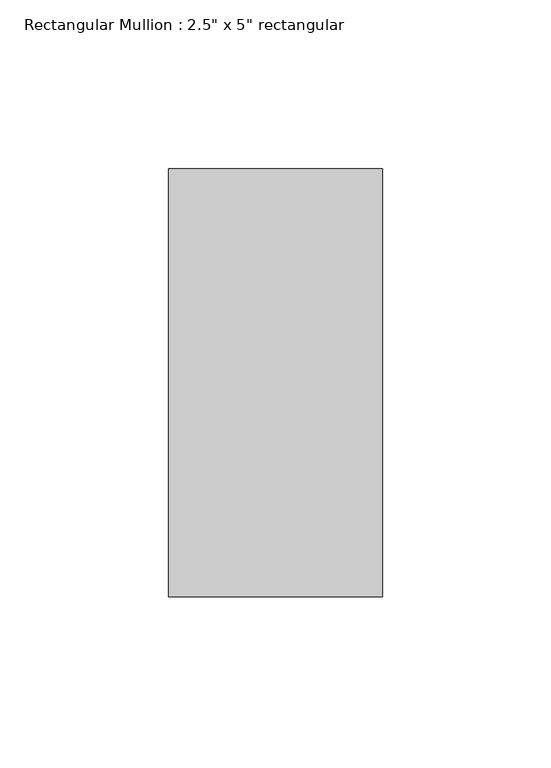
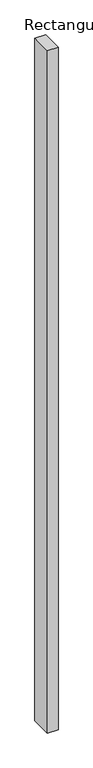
"""IFC4 building model written with IfcOpenShell, lengths in millimetres: member geometry."""

from ifc_helpers import new_model, si_unit, frame, origin, place, context, project, spatial, polyline, outline, extrude, source, transform, mapped, element, save


def member_9e61c091(model_context):
    return source(origin(), model_context, "Body", "SweptSolid", [
        extrude(outline(polyline([(31.75, 63.5), (31.75, -63.5), (-31.75, -63.5), (-31.75, 63.5), (31.75, 63.5)])), frame((0.0, 0.0, -4267.2), z_axis=(0.0, 0.0, 1.0), x_axis=(1.0, 0.0, 0.0)), (0.0, 0.0, 1.0), 4267.2),
    ])


if __name__ == "__main__":
    model = new_model("IFC4")
    model_context = context("Model", 3, world=origin())
    ifc_project = project(units=[si_unit("LENGTHUNIT", "METRE", prefix="MILLI")], contexts=[model_context])
    site = spatial("IfcSite", under=ifc_project)
    building = spatial("IfcBuilding", under=site)
    placement = place(None, origin())
    member_shape = member_9e61c091(model_context)
    element("IfcMember", 1, ObjectType="Rectangular Mullion : 2.5\" x 5\" rectangular", at=placement, inside=building, context=model_context, shape_type="MappedRepresentation", body=[
        mapped(member_shape, transform((0.0, 0.0, 0.0), x_axis=(1.0, 0.0, 0.0), y_axis=(0.0, 1.0, 0.0), z_axis=(0.0, 0.0, 1.0))),
    ])
    save(model, "model.ifc")
